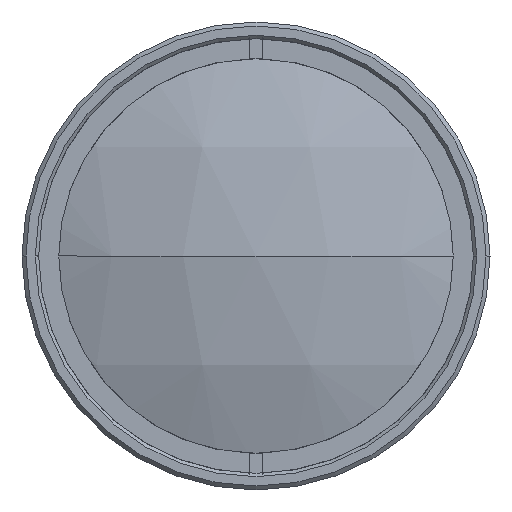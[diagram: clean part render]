
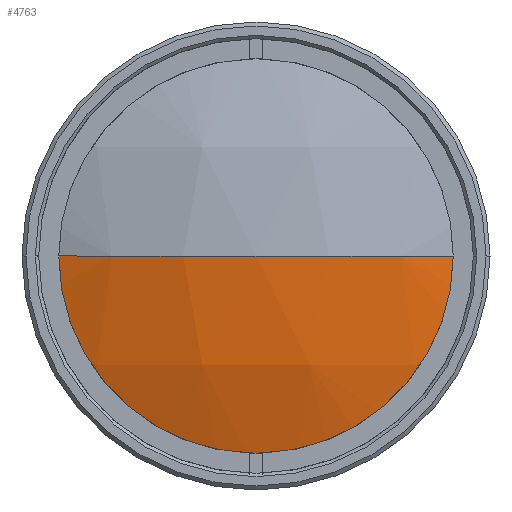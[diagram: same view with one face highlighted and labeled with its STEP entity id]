
A CAD part, left-side view. The second image highlights one B-rep face of the part: STEP entity #4763.
In plain terms, the highlighted spherical face has radius 44.189 mm.
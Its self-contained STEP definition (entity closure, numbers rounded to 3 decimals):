
#63 = CARTESIAN_POINT ( 'NONE',  ( 2.998, 16., 0. ) ) ;
#399 = VERTEX_POINT ( 'NONE', #4352 ) ;
#440 = EDGE_CURVE ( 'NONE', #5106, #2479, #5441, .T. ) ;
#447 = EDGE_CURVE ( 'NONE', #399, #2479, #5453, .T. ) ;
#508 = EDGE_CURVE ( 'NONE', #5106, #399, #5374, .T. ) ;
#1085 = EDGE_LOOP ( 'NONE', ( #5042, #5054, #5129 ) ) ;
#2479 = VERTEX_POINT ( 'NONE', #2728 ) ;
#2728 = CARTESIAN_POINT ( 'NONE',  ( 0., 0., 0. ) ) ;
#3080 = DIRECTION ( 'NONE',  ( 0., 1., 0. ) ) ;
#3086 = DIRECTION ( 'NONE',  ( 0., 0., -1. ) ) ;
#3127 = CARTESIAN_POINT ( 'NONE',  ( 44.189, 0., 0. ) ) ;
#3383 = AXIS2_PLACEMENT_3D ( 'NONE', #3642, #3635, #3647 ) ;
#3386 = DIRECTION ( 'NONE',  ( 0., -1., 0. ) ) ;
#3394 = DIRECTION ( 'NONE',  ( -1., 0., 0. ) ) ;
#3399 = AXIS2_PLACEMENT_3D ( 'NONE', #3649, #3668, #3662 ) ;
#3410 = CARTESIAN_POINT ( 'NONE',  ( 2.998, 0., 0. ) ) ;
#3474 = AXIS2_PLACEMENT_3D ( 'NONE', #3410, #3394, #3386 ) ;
#3635 = DIRECTION ( 'NONE',  ( 0., 0., 1. ) ) ;
#3642 = CARTESIAN_POINT ( 'NONE',  ( 44.189, 0., 0. ) ) ;
#3647 = DIRECTION ( 'NONE',  ( 1., 0., 0. ) ) ;
#3649 = CARTESIAN_POINT ( 'NONE',  ( 44.189, 0., 0. ) ) ;
#3662 = DIRECTION ( 'NONE',  ( 0., 1., 0. ) ) ;
#3668 = DIRECTION ( 'NONE',  ( 0., 0., -1. ) ) ;
#4352 = CARTESIAN_POINT ( 'NONE',  ( 2.998, -16., 0. ) ) ;
#4438 = AXIS2_PLACEMENT_3D ( 'NONE', #3127, #3086, #3080 ) ;
#4478 = FACE_OUTER_BOUND ( 'NONE', #1085, .T. ) ;
#4492 = SPHERICAL_SURFACE ( 'NONE', #4438, 44.189 ) ;
#4763 = ADVANCED_FACE ( 'NONE', ( #4478 ), #4492, .T. ) ;
#5042 = ORIENTED_EDGE ( 'NONE', *, *, #508, .T. ) ;
#5054 = ORIENTED_EDGE ( 'NONE', *, *, #447, .T. ) ;
#5106 = VERTEX_POINT ( 'NONE', #63 ) ;
#5129 = ORIENTED_EDGE ( 'NONE', *, *, #440, .F. ) ;
#5374 = CIRCLE ( 'NONE', #3474, 16. ) ;
#5441 = CIRCLE ( 'NONE', #3383, 44.189 ) ;
#5453 = CIRCLE ( 'NONE', #3399, 44.189 ) ;
